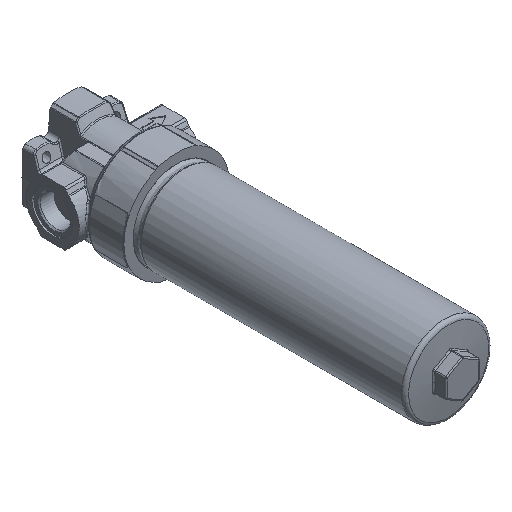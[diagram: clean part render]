
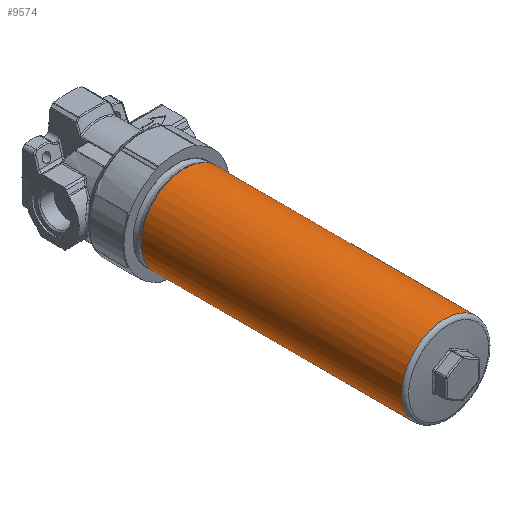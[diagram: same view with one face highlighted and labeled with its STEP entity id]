
A CAD part, isometric view. The second image highlights one B-rep face of the part: STEP entity #9574.
In plain terms, the highlighted free-form (B-spline) face has degree [2, 1] with [7, 2] control points.
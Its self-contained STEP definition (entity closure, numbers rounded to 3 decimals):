
#9464=CARTESIAN_POINT('V464',(-35.0,-220.024,0.0));
#9465=VERTEX_POINT('V464',#9464);
#9479=CARTESIAN_POINT('E790',(-35.0,-220.024,0.0));
#9480=CARTESIAN_POINT('E790',(-35.0,-220.024,
   1.718));
#9481=CARTESIAN_POINT('E790',(-34.746,
   -220.024,5.156));
#9482=CARTESIAN_POINT('E790',(-33.613,
   -220.024,10.199));
#9483=CARTESIAN_POINT('E790',(-31.752,
   -220.024,15.023));
#9484=CARTESIAN_POINT('E790',(-29.204,
   -220.024,19.52));
#9485=CARTESIAN_POINT('E790',(-26.023,
   -220.024,23.595));
#9486=CARTESIAN_POINT('E790',(-22.278,
   -220.024,27.159));
#9487=CARTESIAN_POINT('E790',(-18.05,
   -220.024,30.134));
#9488=CARTESIAN_POINT('E790',(-13.018,
   -220.024,32.666));
#9489=CARTESIAN_POINT('E790',(-7.181,
   -220.024,34.464));
#9490=CARTESIAN_POINT('E790',(-0.65,
   -220.024,35.199));
#9491=CARTESIAN_POINT('E790',(5.904,-220.024,
   34.706));
#9492=CARTESIAN_POINT('E790',(12.515,
   -220.024,32.933));
#9493=CARTESIAN_POINT('E790',(18.9,
   -220.024,29.766));
#9494=CARTESIAN_POINT('E790',(24.569,
   -220.024,25.266));
#9495=CARTESIAN_POINT('E790',(29.104,
   -220.024,19.845));
#9496=CARTESIAN_POINT('E790',(32.416,
   -220.024,13.786));
#9497=CARTESIAN_POINT('E790',(34.483,
   -220.024,7.197));
#9498=CARTESIAN_POINT('E790',(35.217,
   -220.024,0.396));
#9499=CARTESIAN_POINT('E790',(34.635,
   -220.024,-6.353));
#9500=CARTESIAN_POINT('E790',(32.802,
   -220.024,-12.807));
#9501=CARTESIAN_POINT('E790',(29.777,
   -220.024,-18.796));
#9502=CARTESIAN_POINT('E790',(25.716,
   -220.024,-24.045));
#9503=CARTESIAN_POINT('E790',(20.803,
   -220.024,-28.394));
#9504=CARTESIAN_POINT('E790',(15.237,
   -220.024,-31.731));
#9505=CARTESIAN_POINT('E790',(9.153,-220.024,
   -33.988));
#9506=CARTESIAN_POINT('E790',(1.877,-220.024,
   -35.244));
#9507=CARTESIAN_POINT('E790',(-6.428,
   -220.024,-34.812));
#9508=CARTESIAN_POINT('E790',(-14.325,
   -220.024,-32.254));
#9509=CARTESIAN_POINT('E790',(-20.649,
   -220.024,-28.503));
#9510=CARTESIAN_POINT('E790',(-25.559,
   -220.024,-24.208));
#9511=CARTESIAN_POINT('E790',(-29.637,
   -220.024,-19.013));
#9512=CARTESIAN_POINT('E790',(-32.696,
   -220.024,-13.069));
#9513=CARTESIAN_POINT('E790',(-34.577,
   -220.024,-6.655));
#9514=CARTESIAN_POINT('E790',(-35.0,-220.024,
   -2.217));
#9515=CARTESIAN_POINT('E790',(-35.0,-220.024,0.0));
#9516=B_SPLINE_CURVE_WITH_KNOTS('E790',3,(#9479,#9480,#9481,#9482,
   #9483,#9484,#9485,#9486,#9487,#9488,#9489,#9490,#9491,#9492,#9493,
   #9494,#9495,#9496,#9497,#9498,#9499,#9500,#9501,#9502,#9503,#9504,
   #9505,#9506,#9507,#9508,#9509,#9510,#9511,#9512,#9513,#9514,#9515),
   .UNSPECIFIED.,.T.,.U.,(4,1,1,1,1,1,1,1,1,1,1,1,1,1,1,1,1,1,1,1,1,
   1,1,1,1,1,1,1,1,1,1,1,1,1,4),(2.0,3.059,
   4.118,5.177,6.235,
   7.294,8.353,9.412,
   10.471,11.815,13.158,
   14.502,15.846,17.357,
   18.868,20.28,21.691,
   23.102,24.513,25.885,
   27.256,28.627,29.999,
   31.326,32.653,33.98,
   35.307,37.182,39.058,
   40.375,41.693,43.06,
   44.426,45.793,47.159),
   .UNSPECIFIED.);
#9517=EDGE_CURVE('E790',#9465,#9465,#9516,.T.);
#9524=CARTESIAN_POINT('F317',(-35.0,-10.438,0.0));
#9525=CARTESIAN_POINT('F317',(-35.0,-10.438,
   -60.622));
#9526=CARTESIAN_POINT('F317',(17.5,-10.438,
   -30.311));
#9527=CARTESIAN_POINT('F317',(70.0,-10.438,
   0.));
#9528=CARTESIAN_POINT('F317',(17.5,-10.438,
   30.311));
#9529=CARTESIAN_POINT('F317',(-35.0,-10.438,
   60.622));
#9530=CARTESIAN_POINT('F317',(-35.0,-10.438,0.0));
#9531=CARTESIAN_POINT('F317',(-35.0,-222.773,0.0));
#9532=CARTESIAN_POINT('F317',(-35.0,-222.773,
   -60.622));
#9533=CARTESIAN_POINT('F317',(17.5,
   -222.773,-30.311));
#9534=CARTESIAN_POINT('F317',(70.0,-222.773,
   0.));
#9535=CARTESIAN_POINT('F317',(17.5,
   -222.773,30.311));
#9536=CARTESIAN_POINT('F317',(-35.0,-222.773,
   60.622));
#9537=CARTESIAN_POINT('F317',(-35.0,-222.773,0.0));
#9545=(BOUNDED_SURFACE()B_SPLINE_SURFACE(2,1,((#9524,#9531),(
   #9525,#9532),(#9526,#9533),(#9527,#9534),(#9528,#9535),(
   #9529,#9536),(#9530,#9537)),.CYLINDRICAL_SURF.,.T.,.F.,.U.)
   B_SPLINE_SURFACE_WITH_KNOTS((3,2,2,3),(2,2),(0.0,
   0.571,1.142,1.713),(0.0,1.0),
   .UNSPECIFIED.)GEOMETRIC_REPRESENTATION_ITEM()
   RATIONAL_B_SPLINE_SURFACE(((1.0,1.0),(0.5,
   0.5),(1.0,1.0),(0.5,
   0.5),(1.0,1.0),(0.5,
   0.5),(1.0,1.0)))REPRESENTATION_ITEM('F317')
   SURFACE());
#9546=ORIENTED_EDGE('E790',*,*,#9517,.T.);
#9547=CARTESIAN_POINT('V463',(-35.0,-10.438,0.0));
#9548=VERTEX_POINT('V463',#9547);
#9549=CARTESIAN_POINT('E791',(-35.0,-220.024,0.0));
#9550=CARTESIAN_POINT('E791',(-35.0,-10.438,0.0));
#9551=B_SPLINE_CURVE_WITH_KNOTS('E791',1,(#9549,#9550),
   .POLYLINE_FORM.,.F.,.U.,(2,2),(0.013,1.0),
   .UNSPECIFIED.);
#9552=EDGE_CURVE('E791',#9465,#9548,#9551,.T.);
#9553=ORIENTED_EDGE('E791',*,*,#9552,.T.);
#9554=CARTESIAN_POINT('E789',(-35.0,-10.438,0.0));
#9555=CARTESIAN_POINT('E789',(-35.0,-10.438,
   -60.622));
#9556=CARTESIAN_POINT('E789',(17.5,-10.438,
   -30.311));
#9557=CARTESIAN_POINT('E789',(70.0,-10.438,
   0.));
#9558=CARTESIAN_POINT('E789',(17.5,-10.438,
   30.311));
#9559=CARTESIAN_POINT('E789',(-35.0,-10.438,
   60.622));
#9560=CARTESIAN_POINT('E789',(-35.0,-10.438,0.0));
#9568=(BOUNDED_CURVE()B_SPLINE_CURVE(2,(#9554,#9555,#9556,#9557,
   #9558,#9559,#9560),.CIRCULAR_ARC.,.T.,.U.)
   B_SPLINE_CURVE_WITH_KNOTS((3,2,2,3),(0.0,0.571,
   1.142,1.713),.UNSPECIFIED.)CURVE()
   GEOMETRIC_REPRESENTATION_ITEM()RATIONAL_B_SPLINE_CURVE((1.0,
   0.5,1.0,0.5,1.0,0.5,1.0)
   )REPRESENTATION_ITEM('E789'));
#9569=EDGE_CURVE('E789',#9548,#9548,#9568,.T.);
#9570=ORIENTED_EDGE('E789',*,*,#9569,.T.);
#9571=ORIENTED_EDGE('E791',*,*,#9552,.F.);
#9572=EDGE_LOOP('F317',(#9546,#9553,#9570,#9571));
#9573=FACE_OUTER_BOUND('F317',#9572,.T.);
#9574=ADVANCED_FACE('F317',(#9573),#9545,.T.);
